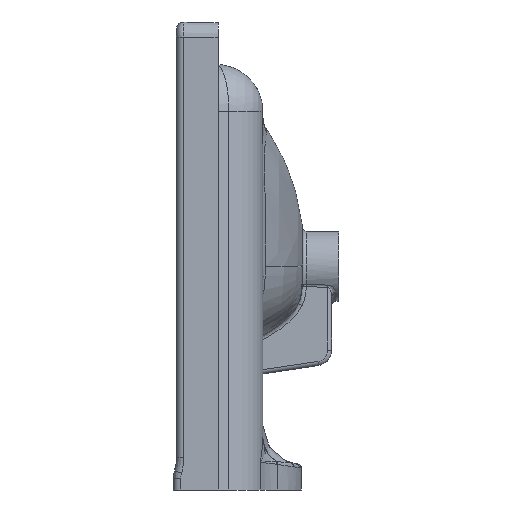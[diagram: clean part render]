
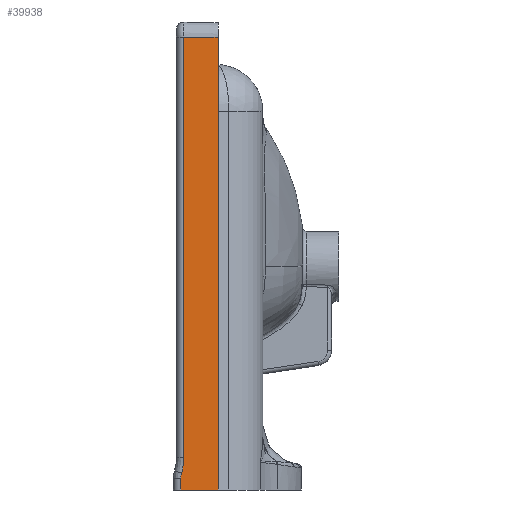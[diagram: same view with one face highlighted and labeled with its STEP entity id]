
A CAD part, left-side view. The second image highlights one B-rep face of the part: STEP entity #39938.
In plain terms, the highlighted planar face has unit normal (-1, -0.022, 0).
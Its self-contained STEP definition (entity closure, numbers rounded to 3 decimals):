
#493 = CARTESIAN_POINT ( 'NONE',  ( 0.221, 195.053, -433.799 ) ) ;
#3085 = VERTEX_POINT ( 'NONE', #31055 ) ;
#5917 = ORIENTED_EDGE ( 'NONE', *, *, #29892, .T. ) ;
#6273 = EDGE_CURVE ( 'NONE', #21231, #46442, #23483, .T. ) ;
#7368 = FACE_OUTER_BOUND ( 'NONE', #18963, .T. ) ;
#7738 = EDGE_CURVE ( 'NONE', #3085, #66377, #44959, .T. ) ;
#7934 = LINE ( 'NONE', #8336, #15157 ) ;
#8336 = CARTESIAN_POINT ( 'NONE',  ( 0.203, 195.844, 0. ) ) ;
#10018 = VERTEX_POINT ( 'NONE', #72749 ) ;
#12694 = CARTESIAN_POINT ( 'NONE',  ( 0.209, 195.579, -435.564 ) ) ;
#13056 = ORIENTED_EDGE ( 'NONE', *, *, #7738, .T. ) ;
#13338 = AXIS2_PLACEMENT_3D ( 'NONE', #30632, #68568, #37166 ) ;
#15157 = VECTOR ( 'NONE', #76451, 1000. ) ;
#18963 = EDGE_LOOP ( 'NONE', ( #49873, #65442, #66289, #39899, #5917, #13056, #69996 ) ) ;
#21231 = VERTEX_POINT ( 'NONE', #39928 ) ;
#23483 = LINE ( 'NONE', #42655, #44885 ) ;
#26747 = CARTESIAN_POINT ( 'NONE',  ( 0.221, 195.053, -433.799 ) ) ;
#29892 = EDGE_CURVE ( 'NONE', #10018, #3085, #75050, .T. ) ;
#30359 = EDGE_CURVE ( 'NONE', #76219, #46442, #7934, .T. ) ;
#30632 = CARTESIAN_POINT ( 'NONE',  ( 0., 205., 0. ) ) ;
#31055 = CARTESIAN_POINT ( 'NONE',  ( 0.27, 192.844, -15. ) ) ;
#31466 = CARTESIAN_POINT ( 'NONE',  ( 0.254, 193.586, -428.878 ) ) ;
#32693 = DIRECTION ( 'NONE',  ( 0., 0., -1. ) ) ;
#34864 =( BOUNDED_CURVE ( )  B_SPLINE_CURVE ( 3, ( #56352, #68198, #31466, #493 ),
 .UNSPECIFIED., .F., .T. ) 
 B_SPLINE_CURVE_WITH_KNOTS ( ( 4, 4 ),
 ( 0., 0.29 ),
 .UNSPECIFIED. ) 
 CURVE ( )  GEOMETRIC_REPRESENTATION_ITEM ( )  RATIONAL_B_SPLINE_CURVE ( ( 1., 0.993, 0.993, 1. ) ) 
 REPRESENTATION_ITEM ( '' )  );
#35762 = DIRECTION ( 'NONE',  ( 0., 0., -1. ) ) ;
#36022 = VECTOR ( 'NONE', #61602, 1000. ) ;
#36318 = CARTESIAN_POINT ( 'NONE',  ( 1., 160., -15. ) ) ;
#36631 = VECTOR ( 'NONE', #35762, 1000. ) ;
#37166 = DIRECTION ( 'NONE',  ( 0., 0., -1. ) ) ;
#39752 = EDGE_CURVE ( 'NONE', #41504, #76219, #53460, .T. ) ;
#39899 = ORIENTED_EDGE ( 'NONE', *, *, #58598, .F. ) ;
#39928 = CARTESIAN_POINT ( 'NONE',  ( 1., 160., -450. ) ) ;
#39938 = ADVANCED_FACE ( 'NONE', ( #7368 ), #74276, .T. ) ;
#41386 = CARTESIAN_POINT ( 'NONE',  ( 0.203, 195.844, -450. ) ) ;
#41504 = VERTEX_POINT ( 'NONE', #26747 ) ;
#41882 = CARTESIAN_POINT ( 'NONE',  ( 1., 160., -450. ) ) ;
#42655 = CARTESIAN_POINT ( 'NONE',  ( 0., 205., -450. ) ) ;
#43694 = CARTESIAN_POINT ( 'NONE',  ( 0.203, 195.844, -437.386 ) ) ;
#44885 = VECTOR ( 'NONE', #60198, 1000. ) ;
#44959 = LINE ( 'NONE', #70624, #61771 ) ;
#46442 = VERTEX_POINT ( 'NONE', #41386 ) ;
#49873 = ORIENTED_EDGE ( 'NONE', *, *, #39752, .T. ) ;
#53460 =( BOUNDED_CURVE ( )  B_SPLINE_CURVE ( 3, ( #56319, #12694, #43694, #55925 ),
 .UNSPECIFIED., .F., .T. ) 
 B_SPLINE_CURVE_WITH_KNOTS ( ( 4, 4 ),
 ( 2.852, 3.142 ),
 .UNSPECIFIED. ) 
 CURVE ( )  GEOMETRIC_REPRESENTATION_ITEM ( )  RATIONAL_B_SPLINE_CURVE ( ( 1., 0.993, 0.993, 1. ) ) 
 REPRESENTATION_ITEM ( '' )  );
#55734 = CARTESIAN_POINT ( 'NONE',  ( 0.27, 192.844, -418.66 ) ) ;
#55925 = CARTESIAN_POINT ( 'NONE',  ( 0.203, 195.844, -439.227 ) ) ;
#56319 = CARTESIAN_POINT ( 'NONE',  ( 0.221, 195.053, -433.799 ) ) ;
#56352 = CARTESIAN_POINT ( 'NONE',  ( 0.27, 192.844, -418.66 ) ) ;
#58598 = EDGE_CURVE ( 'NONE', #10018, #21231, #77781, .T. ) ;
#60198 = DIRECTION ( 'NONE',  ( -0.022, 1., 0. ) ) ;
#61602 = DIRECTION ( 'NONE',  ( -0.022, 1., 0. ) ) ;
#61771 = VECTOR ( 'NONE', #32693, 1000. ) ;
#65442 = ORIENTED_EDGE ( 'NONE', *, *, #30359, .T. ) ;
#66289 = ORIENTED_EDGE ( 'NONE', *, *, #6273, .F. ) ;
#66377 = VERTEX_POINT ( 'NONE', #55734 ) ;
#68198 = CARTESIAN_POINT ( 'NONE',  ( 0.27, 192.844, -423.796 ) ) ;
#68210 = CARTESIAN_POINT ( 'NONE',  ( 0.203, 195.844, -439.227 ) ) ;
#68568 = DIRECTION ( 'NONE',  ( -1., -0.022, 0. ) ) ;
#69996 = ORIENTED_EDGE ( 'NONE', *, *, #72538, .T. ) ;
#70624 = CARTESIAN_POINT ( 'NONE',  ( 0.27, 192.844, -418.66 ) ) ;
#72538 = EDGE_CURVE ( 'NONE', #66377, #41504, #34864, .T. ) ;
#72749 = CARTESIAN_POINT ( 'NONE',  ( 1., 160., -15. ) ) ;
#74276 = PLANE ( 'NONE',  #13338 ) ;
#75050 = LINE ( 'NONE', #36318, #36022 ) ;
#76219 = VERTEX_POINT ( 'NONE', #68210 ) ;
#76451 = DIRECTION ( 'NONE',  ( 0., 0., -1. ) ) ;
#77781 = LINE ( 'NONE', #41882, #36631 ) ;
